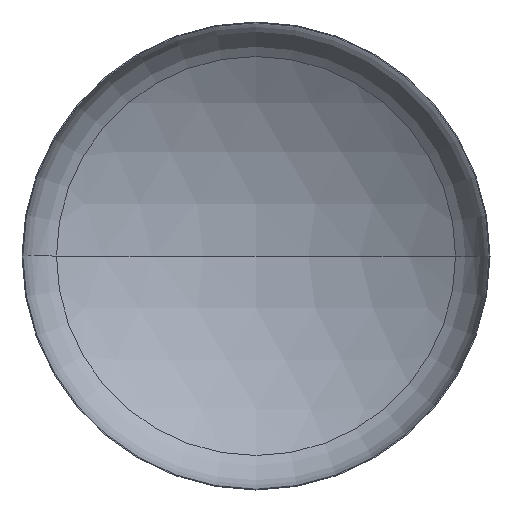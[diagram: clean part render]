
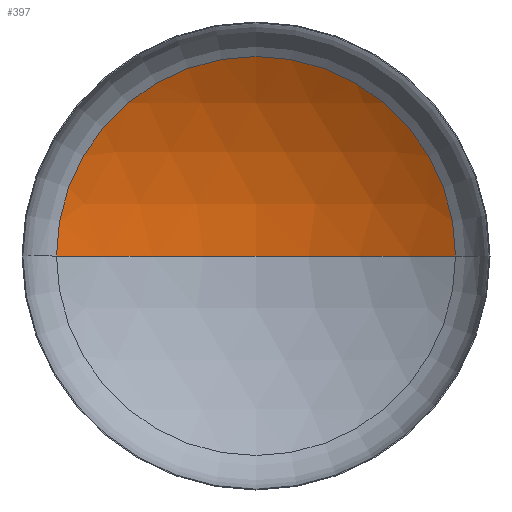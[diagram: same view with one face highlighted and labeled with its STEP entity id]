
A CAD part, front view. The second image highlights one B-rep face of the part: STEP entity #397.
In plain terms, the highlighted spherical face has radius 6000 mm.
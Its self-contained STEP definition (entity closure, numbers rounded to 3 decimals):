
#12 = DIRECTION ( 'NONE',  ( -1., 0., 0. ) ) ;
#18 = VERTEX_POINT ( 'NONE', #77 ) ;
#28 = ORIENTED_EDGE ( 'NONE', *, *, #276, .F. ) ;
#42 = VERTEX_POINT ( 'NONE', #229 ) ;
#68 = FACE_OUTER_BOUND ( 'NONE', #82, .T. ) ;
#74 = AXIS2_PLACEMENT_3D ( 'NONE', #125, #121, #122 ) ;
#77 = CARTESIAN_POINT ( 'NONE',  ( 3197.523, 1017.321, 0. ) ) ;
#82 = EDGE_LOOP ( 'NONE', ( #28, #389, #110 ) ) ;
#93 = VERTEX_POINT ( 'NONE', #165 ) ;
#110 = ORIENTED_EDGE ( 'NONE', *, *, #313, .T. ) ;
#116 = CARTESIAN_POINT ( 'NONE',  ( 0., -4059.671, 0. ) ) ;
#118 = CIRCLE ( 'NONE', #194, 3197.523 ) ;
#121 = DIRECTION ( 'NONE',  ( 0., 0., 1. ) ) ;
#122 = DIRECTION ( 'NONE',  ( 1., 0., 0. ) ) ;
#125 = CARTESIAN_POINT ( 'NONE',  ( 0., -4059.671, 0. ) ) ;
#128 = CARTESIAN_POINT ( 'NONE',  ( 0., -4059.671, 0. ) ) ;
#140 = CIRCLE ( 'NONE', #172, 6000. ) ;
#165 = CARTESIAN_POINT ( 'NONE',  ( 0., 1940.329, 0. ) ) ;
#172 = AXIS2_PLACEMENT_3D ( 'NONE', #128, #247, #12 ) ;
#181 = DIRECTION ( 'NONE',  ( 1., 0., 0. ) ) ;
#194 = AXIS2_PLACEMENT_3D ( 'NONE', #212, #386, #181 ) ;
#212 = CARTESIAN_POINT ( 'NONE',  ( 0., 1017.321, 0. ) ) ;
#229 = CARTESIAN_POINT ( 'NONE',  ( -3197.523, 1017.321, 0. ) ) ;
#247 = DIRECTION ( 'NONE',  ( 0., 0., -1. ) ) ;
#276 = EDGE_CURVE ( 'NONE', #93, #42, #404, .T. ) ;
#296 = EDGE_CURVE ( 'NONE', #93, #18, #140, .T. ) ;
#300 = DIRECTION ( 'NONE',  ( 0., 0., -1. ) ) ;
#313 = EDGE_CURVE ( 'NONE', #18, #42, #118, .T. ) ;
#316 = SPHERICAL_SURFACE ( 'NONE', #362, 6000. ) ;
#362 = AXIS2_PLACEMENT_3D ( 'NONE', #116, #300, #396 ) ;
#386 = DIRECTION ( 'NONE',  ( 0., -1., 0. ) ) ;
#389 = ORIENTED_EDGE ( 'NONE', *, *, #296, .T. ) ;
#396 = DIRECTION ( 'NONE',  ( -1., 0., 0. ) ) ;
#397 = ADVANCED_FACE ( 'NONE', ( #68 ), #316, .F. ) ;
#404 = CIRCLE ( 'NONE', #74, 6000. ) ;
